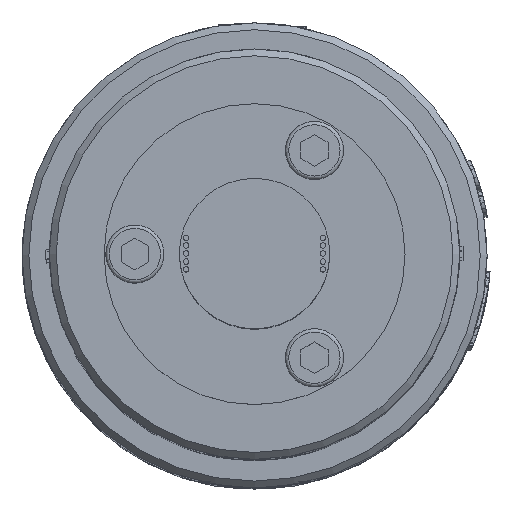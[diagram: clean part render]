
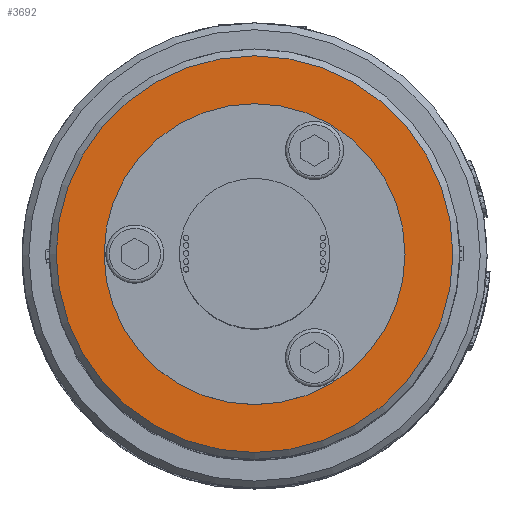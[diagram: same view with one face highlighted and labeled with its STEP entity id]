
A CAD part, top view. The second image highlights one B-rep face of the part: STEP entity #3692.
In plain terms, the highlighted planar face has unit normal (0, 0, 1).
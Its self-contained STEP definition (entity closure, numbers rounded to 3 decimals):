
#916=FACE_BOUND('',#8848,.T.);
#917=FACE_BOUND('',#8849,.T.);
#1522=CIRCLE('',#27406,29.);
#1533=CIRCLE('',#27449,22.);
#2001=PLANE('',#27450);
#3692=ADVANCED_FACE('',(#916,#917),#2001,.T.);
#8848=EDGE_LOOP('',(#13593));
#8849=EDGE_LOOP('',(#13594));
#13593=ORIENTED_EDGE('',*,*,#21767,.T.);
#13594=ORIENTED_EDGE('',*,*,#21832,.F.);
#18746=VERTEX_POINT('',#43216);
#18793=VERTEX_POINT('',#43360);
#21767=EDGE_CURVE('',#18746,#18746,#1522,.T.);
#21832=EDGE_CURVE('',#18793,#18793,#1533,.T.);
#27406=AXIS2_PLACEMENT_3D('',#43215,#30587,#30588);
#27449=AXIS2_PLACEMENT_3D('',#43359,#30727,#30728);
#27450=AXIS2_PLACEMENT_3D('',#43361,#30729,#30730);
#30587=DIRECTION('',(0.,0.,1.));
#30588=DIRECTION('',(1.,0.,0.));
#30727=DIRECTION('',(0.,0.,1.));
#30728=DIRECTION('',(1.,0.,0.));
#30729=DIRECTION('',(0.,0.,1.));
#30730=DIRECTION('',(1.,0.,0.));
#43215=CARTESIAN_POINT('',(0.,0.,233.));
#43216=CARTESIAN_POINT('',(29.,0.,233.));
#43359=CARTESIAN_POINT('',(0.,0.,233.));
#43360=CARTESIAN_POINT('',(22.,0.,233.));
#43361=CARTESIAN_POINT('',(0.,0.,233.));
